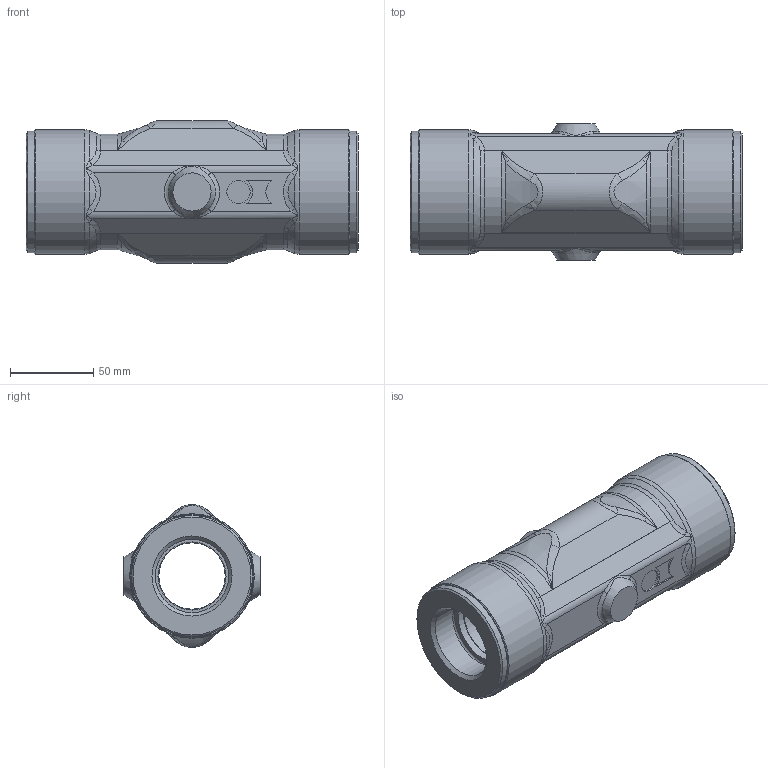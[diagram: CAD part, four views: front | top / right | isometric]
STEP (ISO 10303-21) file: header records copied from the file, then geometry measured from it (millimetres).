
FILE_DESCRIPTION(/* description */ (''),/* implementation_level */ '2;1');
FILE_NAME(/* name */ 'QV40_assembly_VEREINFACHT.stp',/* time_stamp */ '2013-09-05T22:36:44+02:00',/* author */ (''),/* organization */ (''),/* preprocessor_version */ 'ST-DEVELOPER v11',/* originating_system */ 'SIEMENS PLM Software NX 7.5',/* authorisation */ '');
FILE_SCHEMA (('AUTOMOTIVE_DESIGN { 1 0 10303 214 1 1 1 1 }'));
Length unit declared in the file: millimetre
Products named in the file (1): memdE422o06n
Bounding box: 200 x 82 x 86 mm (x, y, z)
Volume: 592144.4 mm3; surface area: 81200 mm2
Topology: 1 solids, 1 shells, 153 faces, 345 edges, 200 vertices
Faces by surface type: bspline 60, plane 32, cylinder 24, cone 21, torus 16
Full cylindrical faces by diameter (mm): 11.801 x1, 14 x2, 40 x1, 41 x2, 44.054 x2, 73 x2, 75 x2
Entity records: 5530 total; most frequent: CARTESIAN_POINT 2689, ORIENTED_EDGE 602, DIRECTION 508, EDGE_CURVE 301, AXIS2_PLACEMENT_3D 234, EDGE_LOOP 196, VERTEX_POINT 189, ADVANCED_FACE 153
